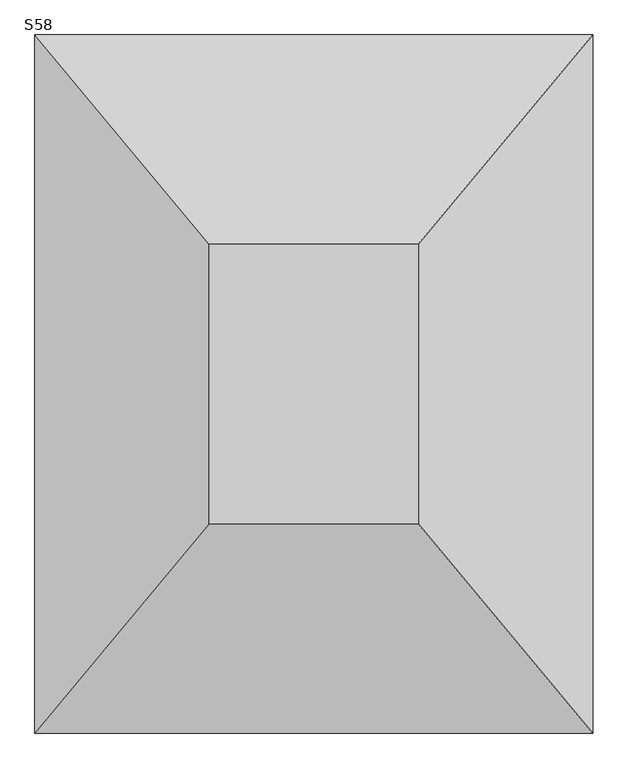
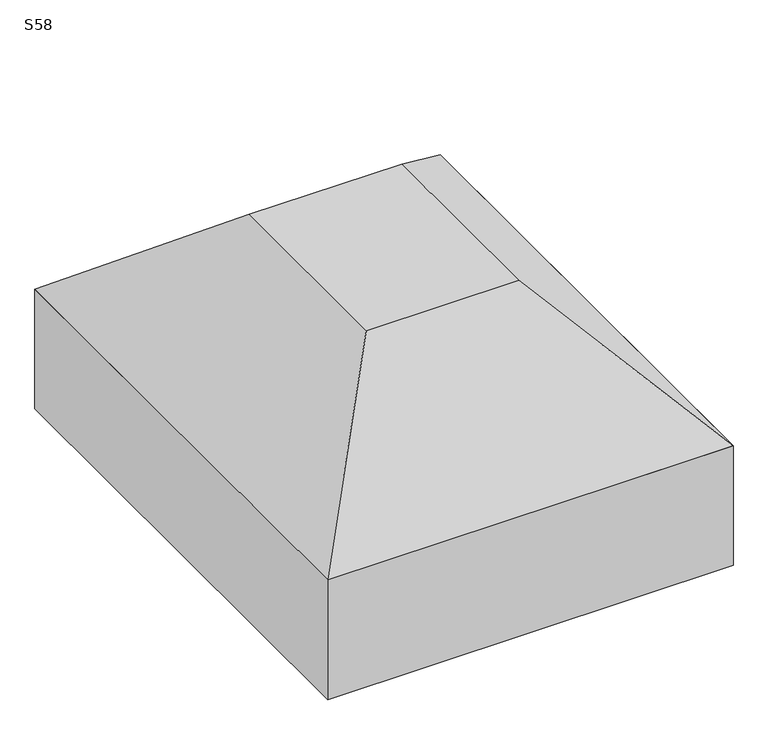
"""IFC4 building model written with IfcOpenShell, lengths in millimetres: fastener geometry, TQS - Sapata : S58."""

from ifc_helpers import new_model, si_unit, frame, origin, place, context, project, spatial, polyline, outline, extrude, faceted_brep, source, transform, mapped, element, save


def s58_72b41ca2(model_context):
    return source(origin(), model_context, "Body", "SolidModel", [
        faceted_brep([(-50.0, 0.0, 0.0), (-350.0, 0.0, 0.0), (-350.0, -400.0, 0.0), (-50.0, -400.0, 0.0), (200.0, 300.0, -250.0), (200.0, -700.0, -250.0), (-600.0, -700.0, -250.0), (-600.0, 300.0, -250.0)], [[[0, 1, 2, 3]], [[4, 5, 6, 7]], [[4, 7, 1, 0]], [[7, 6, 2, 1]], [[6, 5, 3, 2]], [[5, 4, 0, 3]]]),
        extrude(outline(polyline([(200.0, 300.0), (200.0, -700.0), (-600.0, -700.0), (-600.0, 300.0), (200.0, 300.0)])), frame((0.0, 0.0, -500.0), z_axis=(0.0, 0.0, 1.0), x_axis=(1.0, 0.0, 0.0)), (0.0, 0.0, 1.0), 250.0),
    ])


if __name__ == "__main__":
    model = new_model("IFC4")
    model_context = context("Model", 3, world=origin())
    ifc_project = project(units=[si_unit("LENGTHUNIT", "METRE", prefix="MILLI")], contexts=[model_context])
    site = spatial("IfcSite", under=ifc_project)
    building = spatial("IfcBuilding", under=site)
    placement = place(None, origin())
    s58_shape = s58_72b41ca2(model_context)
    element("IfcFastener", 1, ObjectType="TQS - Sapata : S58", at=placement, inside=building, context=model_context, shape_type="MappedRepresentation", body=[
        mapped(s58_shape, transform((0.0, 0.0, 0.0), x_axis=(1.0, 0.0, 0.0), y_axis=(0.0, 1.0, 0.0), z_axis=(0.0, 0.0, 1.0))),
    ])
    save(model, "model.ifc")
